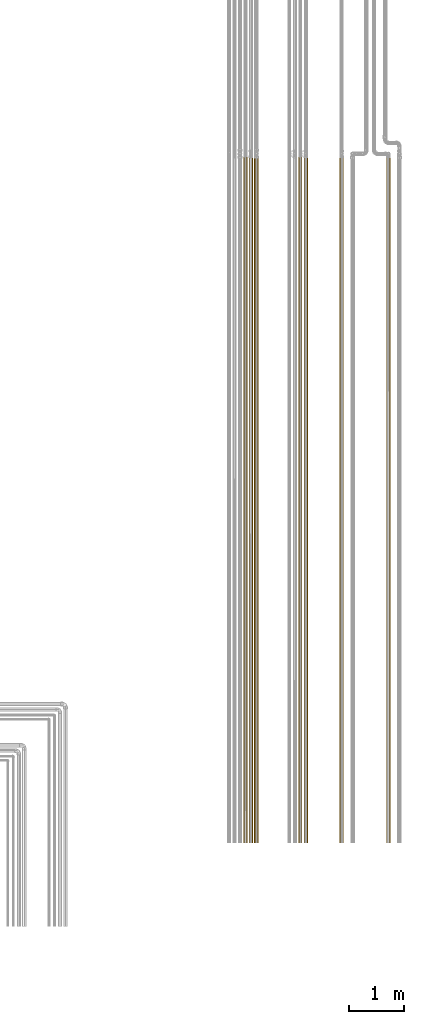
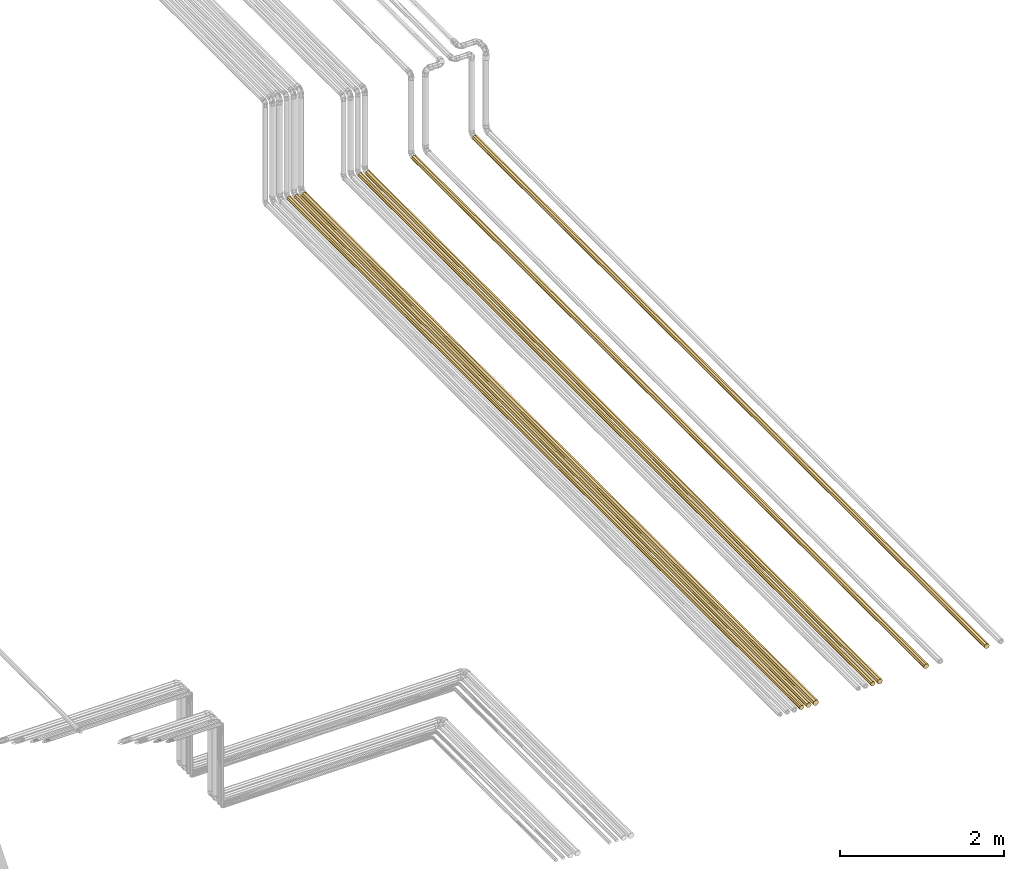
# One storey, part 135 of 652: 7 coverings.
"""IFC2X3 building model written with IfcOpenShell, lengths in millimetres."""

from ifc_helpers import new_model, entity, si_unit, converted_unit, direction, frame, origin, place, context, subcontext, project, spatial, faceted_brep, material, type_object, element, save


model = new_model("IFC2X3")

# Units and contexts
model_context = context("Model", 3, precision=0.01, world=frame((0.0, 0.0, 308426.39999999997)), true_north=direction((6.123233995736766e-17, 1.0)))
plan_context = context("Plan", 3, precision=0.01, world=frame((0.0, 0.0, 308426.39999999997)), true_north=direction((6.123233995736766e-17, 1.0)))
body_context = subcontext(model_context, "Body", "Model", "MODEL_VIEW")
ifc_project = project(units=[si_unit("LENGTHUNIT", "METRE", prefix="MILLI"), si_unit("AREAUNIT", "SQUARE_METRE"), si_unit("VOLUMEUNIT", "CUBIC_METRE"), converted_unit("PLANEANGLEUNIT", "DEGREE", entity("IfcPlaneAngleMeasure", 0.017453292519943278), si_unit("PLANEANGLEUNIT", "RADIAN"), dimensions=[0, 0, 0, 0, 0, 0, 0])], contexts=[model_context, plan_context])

# Site, building, storey
site_placement = place(None, origin())
site = spatial("IfcSite", under=ifc_project, at=site_placement, Name="Default", CompositionType="ELEMENT")
building_placement = place(site_placement, origin())
building = spatial("IfcBuilding", under=site, at=building_placement, CompositionType="ELEMENT")
storey_placement = place(building_placement, frame((0.0, 0.0, 1730.6999999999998)))
storey = spatial("IfcBuildingStorey", under=building, at=storey_placement, Name="EG_Produktion_FFB", CompositionType="ELEMENT", Elevation=1730.6999999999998)

# Coverings
ifc_material = material(Name="Dämmung - Armaflex-Schlauch")
covering_type = type_object("IfcCoveringType", Name="Rohrdämmung außen:Armaflex-Schlauch", PredefinedType="INSULATION")
covering_1_placement = place(storey_placement, frame((79343.99747546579, 39098.028353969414, 2361.9047277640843)))
element("IfcCovering", 1, at=covering_1_placement, inside=storey, type_object=covering_type, material=ifc_material, Name="Rohrdämmung außen:Armaflex-Schlauch", ObjectType="Rohrdämmung außen:Armaflex-Schlauch", PredefinedType="INSULATION", context=body_context, shape_type="Brep", body=[
    faceted_brep([(12.285874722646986, 12465.750000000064, 12.28587472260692), (9.613224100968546, 12465.750000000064, 18.73822410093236), (6.940573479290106, 12465.750000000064, 25.190573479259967), (4.267922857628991, 12465.750000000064, 31.642922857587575), (1.5952722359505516, 12465.750000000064, 38.09527223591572), (4.168244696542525, 12465.750000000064, 44.30697724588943), (6.940573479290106, 12465.750000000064, 50.99997099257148), (9.613224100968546, 12465.750000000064, 57.45232037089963), (12.285874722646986, 12465.750000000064, 63.904669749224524), (18.738224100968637, 12465.750000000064, 66.57732037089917), (25.19057347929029, 12465.750000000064, 69.24997099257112), (31.642922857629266, 12465.750000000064, 71.92262161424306), (38.095272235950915, 12465.750000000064, 74.59527223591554), (44.30697724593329, 12465.750000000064, 72.02229977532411), (50.518682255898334, 12465.750000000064, 69.44932731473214), (57.21167600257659, 12465.750000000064, 66.67699853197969), (63.90466974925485, 12465.750000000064, 63.904669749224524), (66.5773203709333, 12465.750000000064, 57.45232037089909), (69.24997099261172, 12465.750000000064, 50.99997099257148), (71.92262161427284, 12465.750000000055, 44.54762161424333), (74.59527223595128, 12465.750000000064, 38.09527223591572), (71.92262161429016, 12465.750000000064, 31.642922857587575), (69.24997099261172, 12465.750000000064, 25.190573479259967), (66.5773203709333, 12465.750000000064, 18.73822410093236), (63.90466974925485, 12465.750000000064, 12.28587472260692), (57.452320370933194, 12465.750000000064, 9.61322410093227), (50.999970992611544, 12465.750000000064, 6.940573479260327), (44.547621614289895, 12465.750000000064, 4.267922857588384), (38.095272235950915, 12465.750000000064, 1.5952722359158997), (31.883567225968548, 12465.750000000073, 4.168244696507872), (25.19057347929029, 12465.750000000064, 6.940573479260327), (18.738224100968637, 12465.750000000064, 9.61322410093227), (63.90466974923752, 0.0, 63.904669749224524), (57.452320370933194, 0.0, 66.57732037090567), (50.99997099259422, 0.0, 69.24997099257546), (44.54762161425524, 0.0, 71.92262161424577), (38.09527223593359, 0.0, 74.59527223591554), (31.88356722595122, 0.0, 72.02229977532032), (25.671862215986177, 0.0, 69.44932731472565), (18.97886846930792, 0.0, 66.67699853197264), (12.28587472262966, 0.0, 63.904669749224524), (9.61322410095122, 0.0, 57.452320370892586), (6.940573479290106, 0.0, 50.99997099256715), (4.267922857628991, 0.0, 44.547621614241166), (1.5952722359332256, 0.0, 38.09527223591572), (4.168244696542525, 0.0, 31.883567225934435), (6.741217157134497, 0.0, 25.671862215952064), (9.513545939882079, 0.0, 18.97886846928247), (12.28587472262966, 0.0, 12.28587472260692), (18.738224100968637, 0.0, 9.613224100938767), (25.19057347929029, 0.0, 6.940573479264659), (31.64292285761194, 0.0, 4.267922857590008), (38.09527223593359, 0.0, 1.5952722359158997), (44.30697724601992, 0.0, 4.16824469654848), (50.51868225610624, 0.0, 6.741217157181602), (57.21167600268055, 0.0, 9.513545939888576), (63.90466974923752, 0.0, 12.28587472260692), (66.5773203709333, 0.0, 18.738224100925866), (69.24997099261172, 0.0, 25.190573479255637), (71.92262161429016, 0.0, 31.64292285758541), (74.59527223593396, 0.0, 38.09527223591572), (72.02229977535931, 0.0, 44.30697724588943), (69.44932731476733, 0.0, 50.51868225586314), (66.67699853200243, 0.0, 57.21167600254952)], [[[0, 1, 2, 3, 4, 5, 6, 7, 8, 9, 10, 11, 12, 13, 14, 15, 16, 17, 18, 19, 20, 21, 22, 23, 24, 25, 26, 27, 28, 29, 30, 31]], [[32, 33, 34, 35, 36, 37, 38, 39, 40, 41, 42, 43, 44, 45, 46, 47, 48, 49, 50, 51, 52, 53, 54, 55, 56, 57, 58, 59, 60, 61, 62, 63]], [[58, 57, 56, 24, 23, 22, 21, 20, 60, 59]], [[54, 53, 52, 28, 27, 26, 25, 24, 56, 55]], [[29, 28, 52, 51, 50, 49, 48, 0, 31, 30]], [[0, 48, 47, 46, 45, 44, 4, 3, 2, 1]], [[5, 4, 44, 43, 42, 41, 40, 8, 7, 6]], [[8, 40, 39, 38, 37, 36, 12, 11, 10, 9]], [[14, 13, 12, 36, 35, 34, 33, 32, 16, 15]], [[16, 32, 63, 62, 61, 60, 20, 19, 18, 17]]]),
])
covering_2_placement = place(storey_placement, frame((78491.9047277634, 39098.02835396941, 2361.9047277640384)))
element("IfcCovering", 2, at=covering_2_placement, inside=storey, type_object=covering_type, material=ifc_material, Name="Rohrdämmung außen:Armaflex-Schlauch", ObjectType="Rohrdämmung außen:Armaflex-Schlauch", PredefinedType="INSULATION", context=body_context, shape_type="Brep", body=[
    faceted_brep([(12.285874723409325, 12465.750000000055, 12.285874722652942), (9.613224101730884, 12465.750000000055, 18.738224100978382), (6.940573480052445, 12465.750000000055, 25.19057347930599), (4.267922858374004, 12465.750000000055, 31.64292285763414), (1.59527223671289, 12465.750000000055, 38.095272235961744), (4.267922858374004, 12465.750000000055, 44.547621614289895), (6.940573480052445, 12465.750000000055, 50.9999709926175), (9.613224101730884, 12465.750000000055, 57.45232037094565), (12.285874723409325, 12465.750000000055, 63.904669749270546), (18.738224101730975, 12465.750000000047, 66.5773203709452), (25.190573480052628, 12465.750000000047, 69.24997099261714), (31.883567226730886, 12465.750000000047, 72.02229977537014), (38.09527223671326, 12465.750000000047, 74.59527223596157), (44.547621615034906, 12465.750000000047, 71.92262161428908), (50.999970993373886, 12465.750000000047, 69.24997099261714), (57.452320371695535, 12465.750000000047, 66.57732037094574), (63.904669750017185, 12465.750000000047, 63.904669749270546), (66.57732037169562, 12465.750000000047, 57.45232037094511), (69.24997099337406, 12465.750000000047, 50.9999709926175), (72.02229977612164, 12465.750000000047, 44.30697724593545), (74.59527223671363, 12465.750000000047, 38.095272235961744), (71.92262161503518, 12465.750000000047, 31.642922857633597), (69.24997099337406, 12465.750000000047, 25.19057347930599), (66.57732037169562, 12465.750000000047, 18.738224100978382), (63.904669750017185, 12465.750000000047, 12.285874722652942), (57.452320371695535, 12465.750000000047, 9.613224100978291), (50.999970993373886, 12465.750000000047, 6.940573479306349), (44.54762161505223, 12465.750000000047, 4.267922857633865), (38.09527223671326, 12465.750000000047, 1.5952722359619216), (31.883567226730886, 12465.750000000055, 4.168244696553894), (25.190573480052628, 12465.750000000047, 6.940573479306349), (18.738224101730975, 12465.750000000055, 9.613224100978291), (63.90466974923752, 0.0, 63.904669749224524), (57.21167600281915, 0.0, 66.6769985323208), (50.51868225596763, 0.0, 69.44932731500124), (44.30697724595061, 0.0, 72.02229977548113), (38.09527223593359, 0.0, 74.59527223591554), (31.64292285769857, 0.0, 71.92262161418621), (25.19057347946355, 0.0, 69.24997099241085), (18.738224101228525, 0.0, 66.5773203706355), (12.28587472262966, 0.0, 63.904669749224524), (9.513545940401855, 0.0, 57.21167600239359), (6.741217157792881, 0.0, 50.518682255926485), (4.168244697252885, 0.0, 44.306977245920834), (1.5952722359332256, 0.0, 38.09527223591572), (4.168244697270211, 0.0, 31.883567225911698), (6.741217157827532, 0.0, 25.67186221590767), (9.513545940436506, 0.0, 18.978868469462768), (12.28587472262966, 0.0, 12.28587472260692), (18.738224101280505, 0.0, 9.61322410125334), (25.190573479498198, 0.0, 6.940573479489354), (31.642922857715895, 0.0, 4.267922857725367), (38.09527223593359, 0.0, 1.5952722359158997), (44.306977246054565, 0.0, 4.16824469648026), (50.518682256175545, 0.0, 6.741217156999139), (57.21167600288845, 0.0, 9.513545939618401), (63.90466974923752, 0.0, 12.28587472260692), (66.57732037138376, 0.0, 18.738224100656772), (69.24997099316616, 0.0, 25.190573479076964), (71.92262161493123, 0.0, 31.642922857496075), (74.59527223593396, 0.0, 38.09527223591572), (71.92262161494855, 0.0, 44.547621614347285), (69.24997099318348, 0.0, 50.99997099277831), (66.57732037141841, 0.0, 57.452320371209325)], [[[0, 1, 2, 3, 4, 5, 6, 7, 8, 9, 10, 11, 12, 13, 14, 15, 16, 17, 18, 19, 20, 21, 22, 23, 24, 25, 26, 27, 28, 29, 30, 31]], [[32, 33, 34, 35, 36, 37, 38, 39, 40, 41, 42, 43, 44, 45, 46, 47, 48, 49, 50, 51, 52, 53, 54, 55, 56, 57, 58, 59, 60, 61, 62, 63]], [[58, 57, 56, 24, 23, 22, 21, 20, 60, 59]], [[54, 53, 52, 28, 27, 26, 25, 24, 56, 55]], [[29, 28, 52, 51, 50, 49, 48, 0, 31, 30]], [[0, 48, 47, 46, 45, 44, 4, 3, 2, 1]], [[42, 41, 40, 8, 7, 6, 5, 4, 44, 43]], [[8, 40, 39, 38, 37, 36, 12, 11, 10, 9]], [[15, 14, 13, 12, 36, 35, 34, 33, 32, 16]], [[16, 32, 63, 62, 61, 60, 20, 19, 18, 17]]]),
])
covering_3_placement = place(storey_placement, frame((77841.94222776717, 39098.028353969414, 2361.942227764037)))
element("IfcCovering", 3, at=covering_3_placement, inside=storey, type_object=covering_type, material=ifc_material, Name="Rohrdämmung außen:Armaflex-Schlauch", ObjectType="Rohrdämmung außen:Armaflex-Schlauch", PredefinedType="INSULATION", context=body_context, shape_type="Brep", body=[
    faceted_brep([(38.057772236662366, 12465.915750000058, 1.59527223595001), (31.855720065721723, 12465.915750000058, 4.164246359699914), (25.166331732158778, 12465.915750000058, 6.935081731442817), (18.720611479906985, 12465.915750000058, 9.60498647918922), (12.274891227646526, 12465.915750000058, 12.274891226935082), (9.60498647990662, 12465.915750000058, 18.720611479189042), (6.935081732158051, 12465.915750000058, 25.166331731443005), (4.265176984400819, 12465.915750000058, 31.61205198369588), (1.5952722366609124, 12465.915750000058, 38.05777223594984), (4.265176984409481, 12465.915750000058, 44.503492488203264), (6.935081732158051, 12465.915750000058, 50.94921274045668), (9.60498647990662, 12465.915750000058, 57.3949329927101), (12.274891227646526, 12465.915750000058, 63.84065324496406), (18.720611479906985, 12465.915750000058, 66.51055799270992), (25.166331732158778, 12465.915750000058, 69.18046274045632), (31.855720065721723, 12465.915750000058, 71.9512981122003), (38.057772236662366, 12465.915750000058, 74.52027223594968), (44.50349248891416, 12465.915750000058, 71.85036748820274), (50.94921274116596, 12465.915750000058, 69.18046274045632), (57.394932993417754, 12465.91575000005, 66.51055799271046), (63.84065324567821, 12465.91575000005, 63.84065324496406), (66.51055799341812, 12465.91575000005, 57.394932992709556), (69.18046274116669, 12465.91575000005, 50.94921274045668), (71.95129811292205, 12465.91575000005, 44.25982440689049), (74.52027223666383, 12465.91575000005, 38.05777223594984), (71.85036748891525, 12465.91575000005, 31.61205198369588), (69.18046274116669, 12465.91575000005, 25.166331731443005), (66.51055799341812, 12465.91575000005, 18.720611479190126), (63.84065324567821, 12465.91575000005, 12.274891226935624), (57.394932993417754, 12465.91575000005, 9.604986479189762), (50.94921274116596, 12465.915750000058, 6.935081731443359), (44.503492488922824, 12465.915750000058, 4.2651769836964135), (38.057772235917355, 0.0, 1.5952722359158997), (44.259824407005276, 0.0, 4.164246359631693), (50.46187657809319, 0.0, 6.733220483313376), (57.15126491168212, 0.0, 9.504055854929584), (63.8406532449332, 0.0, 12.274891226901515), (66.51055799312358, 0.0, 18.720611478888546), (69.1804627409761, 0.0, 25.166331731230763), (71.85036748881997, 0.0, 31.61205198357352), (74.52027223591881, 0.0, 38.057772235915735), (71.85036748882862, 0.0, 44.50349248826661), (69.18046274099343, 0.0, 50.94921274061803), (66.51055799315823, 0.0, 57.394932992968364), (63.8406532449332, 0.0, 63.84065324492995), (57.15126491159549, 0.0, 66.6114886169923), (50.46187657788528, 0.0, 69.38232398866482), (44.259824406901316, 0.0, 71.95129811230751), (38.057772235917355, 0.0, 74.52027223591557), (31.612051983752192, 0.0, 71.85036748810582), (25.166331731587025, 0.0, 69.1804627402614), (18.72061147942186, 0.0, 66.51055799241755), (12.274891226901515, 0.0, 63.84065324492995), (9.50405585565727, 0.0, 57.15126491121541), (6.733220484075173, 0.0, 50.461876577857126), (4.164246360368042, 0.0, 44.2598244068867), (1.5952722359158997, 0.0, 38.057772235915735), (4.164246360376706, 0.0, 31.855720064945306), (6.733220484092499, 0.0, 25.653667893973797), (9.504055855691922, 0.0, 18.964279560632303), (12.274891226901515, 0.0, 12.274891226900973), (18.72061147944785, 0.0, 9.604986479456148), (25.16633173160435, 0.0, 6.935081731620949), (31.612051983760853, 0.0, 4.265176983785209)], [[[0, 1, 2, 3, 4, 5, 6, 7, 8, 9, 10, 11, 12, 13, 14, 15, 16, 17, 18, 19, 20, 21, 22, 23, 24, 25, 26, 27, 28, 29, 30, 31]], [[32, 33, 34, 35, 36, 37, 38, 39, 40, 41, 42, 43, 44, 45, 46, 47, 48, 49, 50, 51, 52, 53, 54, 55, 56, 57, 58, 59, 60, 61, 62, 63]], [[38, 37, 36, 28, 27, 26, 25, 24, 40, 39]], [[34, 33, 32, 0, 31, 30, 29, 28, 36, 35]], [[1, 0, 32, 63, 62, 61, 60, 4, 3, 2]], [[4, 60, 59, 58, 57, 56, 8, 7, 6, 5]], [[54, 53, 52, 12, 11, 10, 9, 8, 56, 55]], [[12, 52, 51, 50, 49, 48, 16, 15, 14, 13]], [[19, 18, 17, 16, 48, 47, 46, 45, 44, 20]], [[20, 44, 43, 42, 41, 40, 24, 23, 22, 21]]]),
])
covering_4_placement = place(storey_placement, frame((77745.11722776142, 39098.028353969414, 2365.117227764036)))
element("IfcCovering", 4, at=covering_4_placement, inside=storey, type_object=covering_type, material=ifc_material, Name="Rohrdämmung außen:Armaflex-Schlauch", ObjectType="Rohrdämmung außen:Armaflex-Schlauch", PredefinedType="INSULATION", context=body_context, shape_type="Brep", body=[
    faceted_brep([(17.229409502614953, 12479.949250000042, 60.858009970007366), (23.113863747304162, 12479.949250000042, 63.29543072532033), (29.07882887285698, 12479.949250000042, 65.76620017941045), (34.88277223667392, 12479.949250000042, 68.17027223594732), (40.76722648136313, 12479.949250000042, 65.73285148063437), (46.65168072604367, 12479.949250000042, 63.29543072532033), (52.53613497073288, 12479.949250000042, 60.858009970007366), (58.4205892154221, 12479.949250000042, 58.42058921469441), (60.858009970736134, 12479.949250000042, 52.53613497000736), (63.29543072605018, 12479.949250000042, 46.65168072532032), (65.76620018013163, 12479.949250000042, 40.68671559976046), (68.1702722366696, 12479.949250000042, 34.882772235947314), (65.73285148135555, 12479.949250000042, 28.998317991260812), (63.29543072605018, 12479.949250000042, 23.11386374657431), (60.858009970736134, 12479.949250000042, 17.229409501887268), (58.4205892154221, 12479.949250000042, 11.344955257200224), (52.53613497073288, 12479.949250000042, 8.907534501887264), (46.65168072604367, 12479.949250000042, 6.470113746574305), (40.76722648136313, 12479.949250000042, 4.032692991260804), (34.88277223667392, 12479.949250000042, 1.5952722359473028), (29.07882887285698, 12479.949250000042, 3.9993442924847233), (23.113863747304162, 12479.949250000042, 6.470113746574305), (17.22940950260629, 12479.949250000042, 8.907534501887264), (11.344955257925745, 12479.949250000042, 11.344955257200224), (8.907534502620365, 12479.949250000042, 17.229409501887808), (6.47011374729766, 12479.949250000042, 23.11386374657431), (4.032692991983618, 12479.949250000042, 28.998317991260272), (1.5952722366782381, 12479.949250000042, 34.882772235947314), (4.032692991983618, 12479.949250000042, 40.767226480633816), (6.47011374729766, 12479.949250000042, 46.65168072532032), (8.907534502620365, 12479.949250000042, 52.53613497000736), (11.344955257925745, 12479.949250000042, 58.42058921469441), (1.5952722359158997, 0.0, 34.882772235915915), (3.999344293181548, 0.0, 29.078828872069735), (6.403416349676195, 0.0, 23.274885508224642), (8.87418580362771, 0.0, 17.309920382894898), (11.344955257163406, 0.0, 11.34495525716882), (17.229409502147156, 0.0, 8.90753450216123), (23.11386374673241, 0.0, 6.470113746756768), (28.998317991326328, 0.0, 4.032692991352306), (34.88277223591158, 0.0, 1.5952722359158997), (40.68671559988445, 0.0, 3.999344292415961), (46.49065896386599, 0.0, 6.403416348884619), (52.45562408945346, 0.0, 8.874185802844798), (58.420589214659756, 0.0, 11.34495525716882), (60.85800997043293, 0.0, 17.229409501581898), (63.295430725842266, 0.0, 23.113863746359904), (65.73285148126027, 0.0, 28.99831799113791), (68.17027223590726, 0.0, 34.882772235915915), (65.73285148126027, 0.0, 40.767226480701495), (63.295430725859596, 0.0, 46.65168072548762), (60.858009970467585, 0.0, 52.53613497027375), (58.420589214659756, 0.0, 58.420589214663), (52.4556240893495, 0.0, 60.89135866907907), (46.49065896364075, 0.0, 63.362128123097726), (40.68671559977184, 0.0, 65.76620017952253), (34.88277223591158, 0.0, 68.17027223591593), (28.998317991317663, 0.0, 65.73285148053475), (23.113863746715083, 0.0, 63.29543072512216), (17.229409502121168, 0.0, 60.85800996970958), (11.344955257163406, 0.0, 58.420589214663), (8.87418580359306, 0.0, 52.455624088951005), (6.403416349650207, 0.0, 46.4906589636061), (3.9993442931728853, 0.0, 40.68671559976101)], [[[0, 1, 2, 3, 4, 5, 6, 7, 8, 9, 10, 11, 12, 13, 14, 15, 16, 17, 18, 19, 20, 21, 22, 23, 24, 25, 26, 27, 28, 29, 30, 31]], [[32, 33, 34, 35, 36, 37, 38, 39, 40, 41, 42, 43, 44, 45, 46, 47, 48, 49, 50, 51, 52, 53, 54, 55, 56, 57, 58, 59, 60, 61, 62, 63]], [[46, 45, 44, 15, 14, 13, 12, 11, 48, 47]], [[16, 15, 44, 43, 42, 41, 40, 19, 18, 17]], [[20, 19, 40, 39, 38, 37, 36, 23, 22, 21]], [[35, 34, 33, 32, 27, 26, 25, 24, 23, 36]], [[62, 61, 60, 31, 30, 29, 28, 27, 32, 63]], [[31, 60, 59, 58, 57, 56, 3, 2, 1, 0]], [[6, 5, 4, 3, 56, 55, 54, 53, 52, 7]], [[7, 52, 51, 50, 49, 48, 11, 10, 9, 8]]]),
])
covering_5_placement = place(storey_placement, frame((76938.76722776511, 39098.028353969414, 2358.767227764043)))
element("IfcCovering", 5, at=covering_5_placement, inside=storey, type_object=covering_type, material=ifc_material, Name="Rohrdämmung außen:Armaflex-Schlauch", ObjectType="Rohrdämmung außen:Armaflex-Schlauch", PredefinedType="INSULATION", context=body_context, shape_type="Brep", body=[
    faceted_brep([(20.211813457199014, 12451.88225000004, 72.16310601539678), (27.21879971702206, 12451.88225000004, 75.06549475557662), (34.195338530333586, 12451.88225000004, 77.95527175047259), (41.23277223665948, 12451.88225000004, 80.87027223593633), (48.27020594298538, 12451.88225000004, 77.95527175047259), (55.246744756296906, 12451.88225000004, 75.06549475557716), (62.25373101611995, 12451.882250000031, 72.16310601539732), (69.260717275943, 12451.882250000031, 69.26071727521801), (72.1631060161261, 12451.882250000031, 62.253731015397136), (75.06549475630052, 12451.882250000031, 55.2467447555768), (77.95527175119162, 12451.882250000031, 48.27020594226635), (80.87027223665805, 12451.882250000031, 41.232772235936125), (77.96788349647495, 12451.882250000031, 34.22578597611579), (75.06549475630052, 12451.882250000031, 27.218799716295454), (72.1631060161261, 12451.882250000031, 20.21181345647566), (69.260717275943, 12451.882250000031, 13.204827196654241), (62.25373101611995, 12451.882250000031, 10.302438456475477), (55.246744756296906, 12451.882250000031, 7.4000497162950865), (48.27020594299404, 12451.882250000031, 4.510272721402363), (41.23277223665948, 12451.88225000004, 1.5952722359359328), (34.195338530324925, 12451.88225000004, 4.510272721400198), (27.21879971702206, 12451.88225000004, 7.400049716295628), (20.211813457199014, 12451.88225000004, 10.302438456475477), (13.204827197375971, 12451.88225000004, 13.204827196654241), (10.302438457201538, 12451.88225000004, 20.21181345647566), (7.400049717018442, 12451.88225000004, 27.218799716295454), (4.51027272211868, 12451.88225000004, 34.19533852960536), (1.5952722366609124, 12451.88225000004, 41.232772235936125), (4.51027272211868, 12451.88225000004, 48.27020594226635), (7.400049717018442, 12451.88225000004, 55.2467447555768), (10.302438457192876, 12451.88225000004, 62.253731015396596), (13.204827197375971, 12451.88225000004, 69.26071727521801), (1.5952722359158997, 0.0, 41.232772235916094), (4.510272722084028, 0.0, 34.195338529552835), (7.425273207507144, 0.0, 27.15790482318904), (10.315050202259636, 0.0, 20.181366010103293), (13.204827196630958, 0.0, 13.204827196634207), (20.21181345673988, 0.0, 10.302438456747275), (27.21879971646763, 0.0, 7.4000497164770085), (34.22578597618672, 0.0, 4.4976609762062), (41.23277223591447, 0.0, 1.5952722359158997), (48.270205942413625, 0.0, 4.510272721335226), (55.307639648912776, 0.0, 7.42527320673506), (62.284178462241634, 0.0, 10.315050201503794), (69.26071727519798, 0.0, 13.204827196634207), (72.16310601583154, 0.0, 20.211813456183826), (75.06549475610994, 0.0, 27.21879971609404), (77.96788349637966, 0.0, 34.225785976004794), (80.87027223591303, 0.0, 41.232772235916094), (77.96788349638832, 0.0, 48.23975849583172), (75.0654947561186, 0.0, 55.24674475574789), (72.16310601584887, 0.0, 62.25373101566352), (69.26071727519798, 0.0, 69.26071727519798), (62.28417846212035, 0.0, 72.15049427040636), (55.30763964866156, 0.0, 75.04027126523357), (48.27020594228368, 0.0, 77.95527175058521), (41.23277223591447, 0.0, 80.87027223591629), (34.22578597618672, 0.0, 77.96788349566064), (27.218799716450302, 0.0, 75.0654947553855), (20.211813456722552, 0.0, 72.16310601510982), (13.204827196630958, 0.0, 69.26071727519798), (10.315050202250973, 0.0, 62.284178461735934), (7.425273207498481, 0.0, 55.30763964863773), (4.510272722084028, 0.0, 48.27020594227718)], [[[0, 1, 2, 3, 4, 5, 6, 7, 8, 9, 10, 11, 12, 13, 14, 15, 16, 17, 18, 19, 20, 21, 22, 23, 24, 25, 26, 27, 28, 29, 30, 31]], [[32, 33, 34, 35, 36, 37, 38, 39, 40, 41, 42, 43, 44, 45, 46, 47, 48, 49, 50, 51, 52, 53, 54, 55, 56, 57, 58, 59, 60, 61, 62, 63]], [[46, 45, 44, 15, 14, 13, 12, 11, 48, 47]], [[15, 44, 43, 42, 41, 40, 19, 18, 17, 16]], [[19, 40, 39, 38, 37, 36, 23, 22, 21, 20]], [[23, 36, 35, 34, 33, 32, 27, 26, 25, 24]], [[28, 27, 32, 63, 62, 61, 60, 31, 30, 29]], [[31, 60, 59, 58, 57, 56, 3, 2, 1, 0]], [[54, 53, 52, 7, 6, 5, 4, 3, 56, 55]], [[7, 52, 51, 50, 49, 48, 11, 10, 9, 8]]]),
])
covering_6_placement = place(storey_placement, frame((76841.94222776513, 39098.02835396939, 2361.942227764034)))
element("IfcCovering", 6, at=covering_6_placement, inside=storey, type_object=covering_type, material=ifc_material, Name="Rohrdämmung außen:Armaflex-Schlauch", ObjectType="Rohrdämmung außen:Armaflex-Schlauch", PredefinedType="INSULATION", context=body_context, shape_type="Brep", body=[
    faceted_brep([(38.057772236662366, 12465.915750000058, 1.5952722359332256), (31.855720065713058, 12465.915750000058, 4.164246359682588), (25.166331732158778, 12465.915750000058, 6.935081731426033), (18.72061147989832, 12465.915750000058, 9.604986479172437), (12.274891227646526, 12465.915750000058, 12.274891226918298), (9.604986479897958, 12465.915750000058, 18.72061147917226), (6.935081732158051, 12465.915750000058, 25.16633173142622), (4.265176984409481, 12465.915750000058, 31.61205198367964), (1.5952722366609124, 12465.915750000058, 38.05777223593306), (4.265176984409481, 12465.915750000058, 44.503492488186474), (6.935081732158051, 12465.915750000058, 50.9492127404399), (9.604986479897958, 12465.915750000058, 57.39493299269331), (12.274891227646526, 12465.915750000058, 63.840653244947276), (18.72061147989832, 12465.915750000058, 66.51055799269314), (25.166331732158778, 12465.915750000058, 69.18046274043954), (31.855720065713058, 12465.915750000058, 71.95129811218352), (38.057772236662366, 12465.915750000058, 74.5202722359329), (44.50349248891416, 12465.915750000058, 71.85036748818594), (50.94921274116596, 12465.915750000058, 69.18046274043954), (57.394932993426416, 12465.91575000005, 66.51055799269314), (63.84065324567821, 12465.91575000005, 63.840653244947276), (66.51055799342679, 12465.91575000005, 57.39493299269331), (69.18046274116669, 12465.91575000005, 50.9492127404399), (71.95129811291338, 12465.91575000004, 44.259824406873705), (74.52027223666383, 12465.91575000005, 38.05777223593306), (71.85036748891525, 12465.91575000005, 31.61205198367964), (69.18046274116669, 12465.91575000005, 25.16633173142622), (66.51055799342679, 12465.91575000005, 18.72061147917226), (63.84065324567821, 12465.91575000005, 12.27489122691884), (57.394932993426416, 12465.915750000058, 9.604986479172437), (50.94921274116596, 12465.915750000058, 6.935081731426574), (44.50349248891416, 12465.915750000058, 4.2651769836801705), (38.057772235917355, 0.0, 1.5952722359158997), (44.259824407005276, 0.0, 4.1642463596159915), (50.46187657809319, 0.0, 6.733220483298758), (57.15126491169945, 0.0, 9.504055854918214), (63.8406532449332, 0.0, 12.274891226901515), (66.5105579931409, 0.0, 18.720611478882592), (69.1804627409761, 0.0, 25.166331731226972), (71.85036748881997, 0.0, 31.612051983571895), (74.52027223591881, 0.0, 38.057772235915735), (71.85036748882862, 0.0, 44.50349248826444), (69.18046274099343, 0.0, 50.949212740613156), (66.51055799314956, 0.0, 57.39493299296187), (63.8406532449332, 0.0, 63.84065324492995), (57.15126491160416, 0.0, 66.61148861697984), (50.46187657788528, 0.0, 69.38232398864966), (44.259824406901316, 0.0, 71.95129811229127), (38.057772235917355, 0.0, 74.52027223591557), (31.612051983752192, 0.0, 71.8503674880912), (25.166331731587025, 0.0, 69.18046274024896), (18.72061147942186, 0.0, 66.51055799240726), (12.274891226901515, 0.0, 63.84065324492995), (9.504055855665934, 0.0, 57.15126491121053), (6.733220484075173, 0.0, 50.4618765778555), (4.164246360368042, 0.0, 44.25982440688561), (1.5952722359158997, 0.0, 38.057772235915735), (4.164246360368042, 0.0, 31.855720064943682), (6.733220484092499, 0.0, 25.653667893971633), (9.50405585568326, 0.0, 18.96427956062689), (12.274891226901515, 0.0, 12.274891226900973), (18.720611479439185, 0.0, 9.60498647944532), (25.16633173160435, 0.0, 6.935081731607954), (31.612051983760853, 0.0, 4.26517698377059)], [[[0, 1, 2, 3, 4, 5, 6, 7, 8, 9, 10, 11, 12, 13, 14, 15, 16, 17, 18, 19, 20, 21, 22, 23, 24, 25, 26, 27, 28, 29, 30, 31]], [[32, 33, 34, 35, 36, 37, 38, 39, 40, 41, 42, 43, 44, 45, 46, 47, 48, 49, 50, 51, 52, 53, 54, 55, 56, 57, 58, 59, 60, 61, 62, 63]], [[38, 37, 36, 28, 27, 26, 25, 24, 40, 39]], [[34, 33, 32, 0, 31, 30, 29, 28, 36, 35]], [[1, 0, 32, 63, 62, 61, 60, 4, 3, 2]], [[4, 60, 59, 58, 57, 56, 8, 7, 6, 5]], [[54, 53, 52, 12, 11, 10, 9, 8, 56, 55]], [[12, 52, 51, 50, 49, 48, 16, 15, 14, 13]], [[19, 18, 17, 16, 48, 47, 46, 45, 44, 20]], [[20, 44, 43, 42, 41, 40, 24, 23, 22, 21]]]),
])
covering_7_placement = place(storey_placement, frame((76745.11722776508, 39098.028353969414, 2365.117227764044)))
element("IfcCovering", 7, at=covering_7_placement, inside=storey, type_object=covering_type, material=ifc_material, Name="Rohrdämmung außen:Armaflex-Schlauch", ObjectType="Rohrdämmung außen:Armaflex-Schlauch", PredefinedType="INSULATION", context=body_context, shape_type="Brep", body=[
    faceted_brep([(17.229409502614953, 12479.949250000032, 60.85800996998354), (23.113863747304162, 12479.949250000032, 63.295430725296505), (29.078828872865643, 12479.949250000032, 65.76620017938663), (34.88277223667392, 12479.949250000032, 68.1702722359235), (40.76722648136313, 12479.949250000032, 65.73285148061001), (46.65168072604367, 12479.949250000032, 63.295430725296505), (52.53613497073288, 12479.949250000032, 60.85800996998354), (58.4205892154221, 12479.949250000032, 58.420589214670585), (60.858009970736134, 12479.949250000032, 52.53613496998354), (63.29543072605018, 12479.949250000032, 46.651680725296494), (65.76620018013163, 12479.949250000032, 40.686715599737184), (68.1702722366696, 12479.949250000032, 34.88277223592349), (65.73285148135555, 12479.949250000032, 28.99831799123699), (63.29543072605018, 12479.949250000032, 23.11386374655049), (60.858009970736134, 12479.949250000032, 17.229409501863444), (58.4205892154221, 12479.949250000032, 11.3449552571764), (52.53613497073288, 12479.949250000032, 8.907534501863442), (46.65168072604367, 12479.949250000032, 6.470113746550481), (40.76722648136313, 12479.949250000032, 4.03269299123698), (34.88277223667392, 12479.949250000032, 1.5952722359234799), (29.07882887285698, 12479.949250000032, 3.9993442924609), (23.113863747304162, 12479.949250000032, 6.470113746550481), (17.22940950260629, 12479.949250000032, 8.907534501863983), (11.344955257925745, 12479.949250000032, 11.3449552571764), (8.907534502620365, 12479.949250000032, 17.229409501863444), (6.47011374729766, 12479.949250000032, 23.11386374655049), (4.032692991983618, 12479.949250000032, 28.99831799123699), (1.5952722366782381, 12479.949250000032, 34.88277223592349), (4.032692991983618, 12479.949250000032, 40.76722648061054), (6.47011374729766, 12479.949250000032, 46.651680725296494), (8.907534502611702, 12479.949250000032, 52.53613496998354), (11.344955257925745, 12479.949250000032, 58.420589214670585), (1.5952722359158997, 0.0, 34.882772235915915), (3.9993442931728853, 0.0, 29.078828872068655), (6.403416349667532, 0.0, 23.274885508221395), (8.874185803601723, 0.0, 17.309920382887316), (11.344955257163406, 0.0, 11.34495525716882), (17.22940950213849, 0.0, 8.90753450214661), (23.11386374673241, 0.0, 6.4701137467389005), (28.998317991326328, 0.0, 4.03269299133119), (34.88277223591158, 0.0, 1.5952722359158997), (40.68671559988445, 0.0, 3.9993442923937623), (46.49065896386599, 0.0, 6.403416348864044), (52.45562408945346, 0.0, 8.874185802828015), (58.420589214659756, 0.0, 11.34495525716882), (60.85800997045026, 0.0, 17.229409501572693), (63.295430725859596, 0.0, 23.113863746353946), (65.73285148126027, 0.0, 28.99831799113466), (68.17027223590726, 0.0, 34.882772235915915), (65.73285148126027, 0.0, 40.76722648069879), (63.295430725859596, 0.0, 46.65168072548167), (60.85800997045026, 0.0, 52.53613497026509), (58.420589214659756, 0.0, 58.420589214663), (52.455624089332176, 0.0, 60.891358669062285), (46.490658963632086, 0.0, 63.36212812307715), (40.68671559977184, 0.0, 65.76620017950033), (34.88277223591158, 0.0, 68.17027223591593), (28.998317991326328, 0.0, 65.73285148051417), (23.11386374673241, 0.0, 63.295430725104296), (17.22940950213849, 0.0, 60.85800996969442), (11.344955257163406, 0.0, 58.420589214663), (8.874185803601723, 0.0, 52.455624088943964), (6.403416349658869, 0.0, 46.49065896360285), (3.9993442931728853, 0.0, 40.68671559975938)], [[[0, 1, 2, 3, 4, 5, 6, 7, 8, 9, 10, 11, 12, 13, 14, 15, 16, 17, 18, 19, 20, 21, 22, 23, 24, 25, 26, 27, 28, 29, 30, 31]], [[32, 33, 34, 35, 36, 37, 38, 39, 40, 41, 42, 43, 44, 45, 46, 47, 48, 49, 50, 51, 52, 53, 54, 55, 56, 57, 58, 59, 60, 61, 62, 63]], [[46, 45, 44, 15, 14, 13, 12, 11, 48, 47]], [[16, 15, 44, 43, 42, 41, 40, 19, 18, 17]], [[20, 19, 40, 39, 38, 37, 36, 23, 22, 21]], [[35, 34, 33, 32, 27, 26, 25, 24, 23, 36]], [[62, 61, 60, 31, 30, 29, 28, 27, 32, 63]], [[31, 60, 59, 58, 57, 56, 3, 2, 1, 0]], [[6, 5, 4, 3, 56, 55, 54, 53, 52, 7]], [[7, 52, 51, 50, 49, 48, 11, 10, 9, 8]]]),
])

save(model, "model.ifc")
